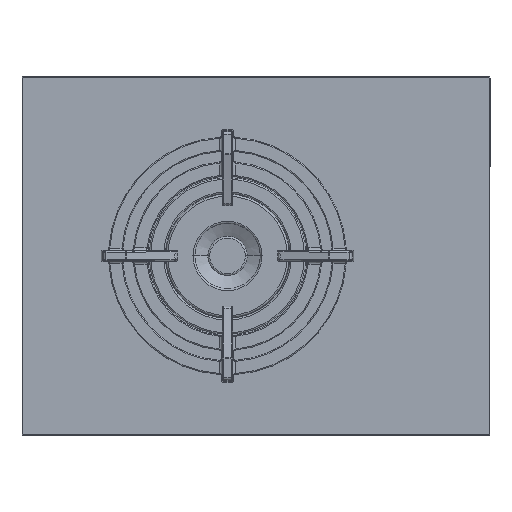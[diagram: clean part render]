
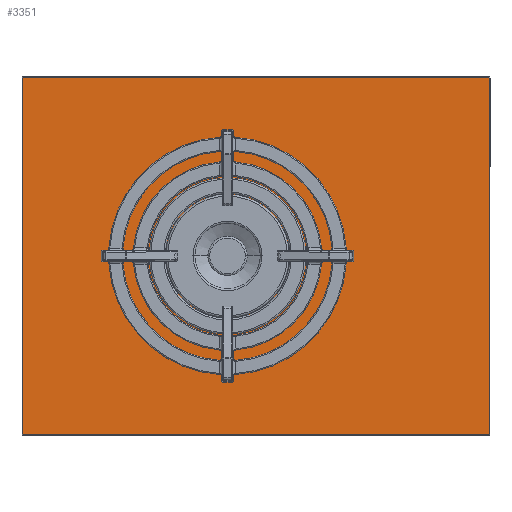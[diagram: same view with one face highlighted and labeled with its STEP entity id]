
A CAD part, top view. The second image highlights one B-rep face of the part: STEP entity #3351.
In plain terms, the highlighted planar face has unit normal (0, 0, 1).
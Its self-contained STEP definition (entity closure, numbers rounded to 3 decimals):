
#3072=CARTESIAN_POINT('',(249.,-191.,4.));
#3073=CARTESIAN_POINT('',(249.038,-191.,4.));
#3074=CARTESIAN_POINT('',(249.113,-190.991,4.));
#3075=CARTESIAN_POINT('',(249.219,-190.954,4.));
#3076=CARTESIAN_POINT('',(249.315,-190.894,4.));
#3077=CARTESIAN_POINT('',(249.394,-190.815,4.));
#3078=CARTESIAN_POINT('',(249.454,-190.719,4.));
#3079=CARTESIAN_POINT('',(249.491,-190.613,4.));
#3080=CARTESIAN_POINT('',(249.5,-190.538,4.));
#3081=CARTESIAN_POINT('',(249.5,-190.5,4.));
#3086=CARTESIAN_POINT('',(-249.5,-190.5,
4.));
#3087=CARTESIAN_POINT('',(-249.5,-190.538,
4.));
#3088=CARTESIAN_POINT('',(-249.491,-190.613,
4.));
#3089=CARTESIAN_POINT('',(-249.454,-190.719,
4.));
#3090=CARTESIAN_POINT('',(-249.394,-190.815,
4.));
#3091=CARTESIAN_POINT('',(-249.315,-190.894,
4.));
#3092=CARTESIAN_POINT('',(-249.219,-190.954,
4.));
#3093=CARTESIAN_POINT('',(-249.113,-190.991,
4.));
#3094=CARTESIAN_POINT('',(-249.038,-191.,
4.));
#3095=CARTESIAN_POINT('',(-249.,-191.,
4.));
#3100=CARTESIAN_POINT('',(-249.,191.,4.));
#3101=CARTESIAN_POINT('',(-249.038,191.,4.));
#3102=CARTESIAN_POINT('',(-249.113,190.991,4.));
#3103=CARTESIAN_POINT('',(-249.219,190.954,4.));
#3104=CARTESIAN_POINT('',(-249.315,190.894,4.));
#3105=CARTESIAN_POINT('',(-249.394,190.815,4.));
#3106=CARTESIAN_POINT('',(-249.454,190.719,4.));
#3107=CARTESIAN_POINT('',(-249.491,190.613,4.));
#3108=CARTESIAN_POINT('',(-249.5,190.538,4.));
#3109=CARTESIAN_POINT('',(-249.5,190.5,4.));
#3114=CARTESIAN_POINT('',(249.5,190.5,4.));
#3115=CARTESIAN_POINT('',(249.5,190.538,4.));
#3116=CARTESIAN_POINT('',(249.491,190.613,4.));
#3117=CARTESIAN_POINT('',(249.454,190.719,4.));
#3118=CARTESIAN_POINT('',(249.394,190.815,4.));
#3119=CARTESIAN_POINT('',(249.315,190.894,4.));
#3120=CARTESIAN_POINT('',(249.219,190.954,4.));
#3121=CARTESIAN_POINT('',(249.113,190.991,4.));
#3122=CARTESIAN_POINT('',(249.038,191.,4.));
#3123=CARTESIAN_POINT('',(249.,191.,4.));
#3135=DIRECTION('',(0.,-1.,0.));
#3136=VECTOR('',#3135,381.);
#3137=CARTESIAN_POINT('',(249.5,190.5,4.));
#3138=LINE('',#3137,#3136);
#3179=DIRECTION('',(-1.,0.,0.));
#3180=VECTOR('',#3179,498.);
#3181=CARTESIAN_POINT('',(249.,-191.,4.));
#3182=LINE('',#3181,#3180);
#3223=DIRECTION('',(0.,1.,0.));
#3224=VECTOR('',#3223,381.);
#3225=CARTESIAN_POINT('',(-249.5,-190.5,
4.));
#3226=LINE('',#3225,#3224);
#3267=DIRECTION('',(1.,0.,0.));
#3268=VECTOR('',#3267,498.);
#3269=CARTESIAN_POINT('',(-249.,191.,4.));
#3270=LINE('',#3269,#3268);
#3304=CARTESIAN_POINT('',(249.5,190.5,4.));
#3305=CARTESIAN_POINT('',(249.5,-190.5,4.));
#3306=VERTEX_POINT('',#3304);
#3307=VERTEX_POINT('',#3305);
#3308=VERTEX_POINT('',#3123);
#3309=CARTESIAN_POINT('',(-249.,191.,4.));
#3310=VERTEX_POINT('',#3309);
#3311=VERTEX_POINT('',#3109);
#3312=CARTESIAN_POINT('',(-249.5,-190.5,
4.));
#3313=VERTEX_POINT('',#3312);
#3314=VERTEX_POINT('',#3095);
#3315=CARTESIAN_POINT('',(249.,-191.,4.));
#3316=VERTEX_POINT('',#3315);
#3328=CARTESIAN_POINT('',(0.,0.,4.));
#3329=DIRECTION('',(0.,0.,1.));
#3330=DIRECTION('',(1.,0.,0.));
#3331=AXIS2_PLACEMENT_3D('',#3328,#3329,#3330);
#3332=PLANE('',#3331);
#3334=ORIENTED_EDGE('',*,*,#3333,.T.);
#3336=ORIENTED_EDGE('',*,*,#3335,.F.);
#3338=ORIENTED_EDGE('',*,*,#3337,.T.);
#3340=ORIENTED_EDGE('',*,*,#3339,.F.);
#3342=ORIENTED_EDGE('',*,*,#3341,.T.);
#3344=ORIENTED_EDGE('',*,*,#3343,.F.);
#3346=ORIENTED_EDGE('',*,*,#3345,.T.);
#3348=ORIENTED_EDGE('',*,*,#3347,.F.);
#3349=EDGE_LOOP('',(#3334,#3336,#3338,#3340,#3342,#3344,#3346,#3348));
#3350=FACE_OUTER_BOUND('',#3349,.F.);
#3082=B_SPLINE_CURVE_WITH_KNOTS('',3,(#3072,#3073,#3074,#3075,#3076,#3077,#3078,
#3079,#3080,#3081),.UNSPECIFIED.,.F.,.F.,(4,1,1,1,1,1,1,4),(0.,
0.143,0.286,0.429,0.571,
0.714,0.857,1.),.UNSPECIFIED.);
#3096=B_SPLINE_CURVE_WITH_KNOTS('',3,(#3086,#3087,#3088,#3089,#3090,#3091,#3092,
#3093,#3094,#3095),.UNSPECIFIED.,.F.,.F.,(4,1,1,1,1,1,1,4),(0.,
0.143,0.286,0.429,0.571,
0.714,0.857,1.),.UNSPECIFIED.);
#3110=B_SPLINE_CURVE_WITH_KNOTS('',3,(#3100,#3101,#3102,#3103,#3104,#3105,#3106,
#3107,#3108,#3109),.UNSPECIFIED.,.F.,.F.,(4,1,1,1,1,1,1,4),(0.,
0.143,0.286,0.429,0.571,
0.714,0.857,1.),.UNSPECIFIED.);
#3124=B_SPLINE_CURVE_WITH_KNOTS('',3,(#3114,#3115,#3116,#3117,#3118,#3119,#3120,
#3121,#3122,#3123),.UNSPECIFIED.,.F.,.F.,(4,1,1,1,1,1,1,4),(0.,
0.143,0.286,0.429,0.571,
0.714,0.857,1.),.UNSPECIFIED.);
#3333=EDGE_CURVE('',#3306,#3307,#3138,.T.);
#3335=EDGE_CURVE('',#3316,#3307,#3082,.T.);
#3337=EDGE_CURVE('',#3316,#3314,#3182,.T.);
#3339=EDGE_CURVE('',#3313,#3314,#3096,.T.);
#3341=EDGE_CURVE('',#3313,#3311,#3226,.T.);
#3343=EDGE_CURVE('',#3310,#3311,#3110,.T.);
#3345=EDGE_CURVE('',#3310,#3308,#3270,.T.);
#3347=EDGE_CURVE('',#3306,#3308,#3124,.T.);
#3351=ADVANCED_FACE('',(#3350),#3332,.T.);
